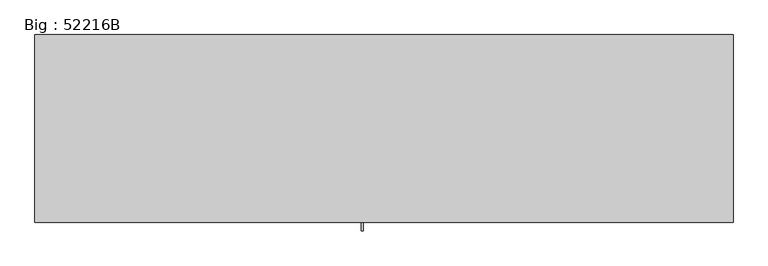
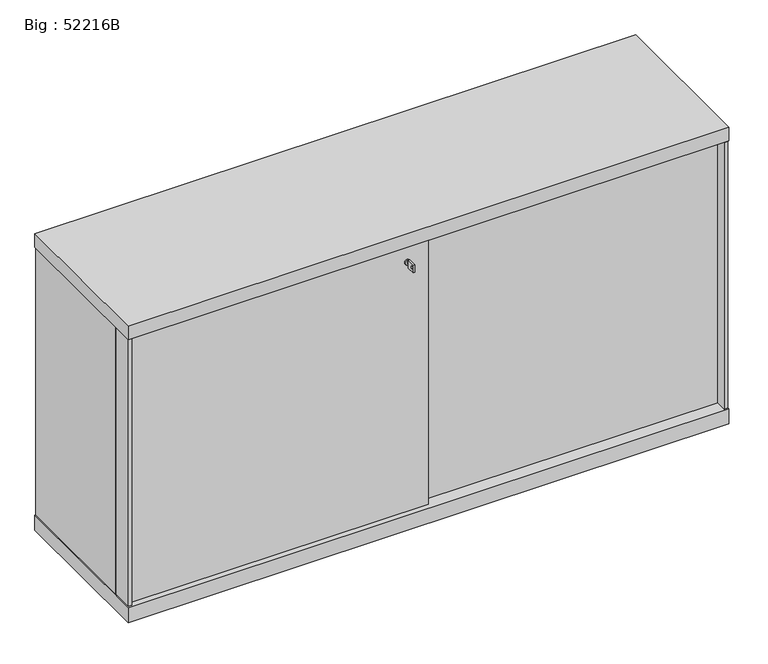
"""IFC4 building model written with IfcOpenShell, lengths in millimetres: furniture geometry, Big : 52216B."""

from ifc_helpers import new_model, si_unit, point, frame, frame_2d, origin, origin_with_axes, place, context, project, spatial, polyline, circle_curve, trimmed, segment, composite_curve, outline, extrude, source, transform, mapped, element, save


def big_52216b_2ced153d(model_context):
    return source(origin(), model_context, "Body", "SweptSolid", [
        extrude(outline(polyline([(-20.0, 741.014113), (-20.0, 763.0), (2.0, 763.0), (2.0, 741.014113), (-20.0, 741.014113)]), holes=[composite_curve([segment(trimmed(circle_curve(frame_2d((-13.75, 752.0070565)), 3.2230706), [point((-13.75, 755.2301271))], [point((-13.75, 748.7839859))], True, "CARTESIAN"), True, "CONTINUOUS"), segment(trimmed(circle_curve(frame_2d((-13.75, 752.0070565)), 3.2230706), [point((-13.75, 748.7839859))], [point((-13.75, 755.2301271))], True, "CARTESIAN"), True, "CONTINUOUS")], self_intersect=False)]), frame((-52.0, 0.0, 0.0), z_axis=(1.0, 0.0, 0.0), x_axis=(0.0, 1.0, 0.0)), (0.0, 0.0, 1.0), 4.0416064),
        extrude(outline(polyline([(-48.9583936, 2.0), (-51.0, 2.0), (-51.0, 8.0), (-48.9583936, 8.0), (-48.9583936, 2.0)])), frame((0.0, 0.0, 748.014113), z_axis=(0.0, 0.0, 1.0), x_axis=(1.0, 0.0, 0.0)), (0.0, 0.0, 1.0), 7.985887),
        extrude(outline(composite_curve([segment(trimmed(circle_curve(frame_2d((752.0, -50.0)), 7.0), [point((752.0, -57.0))], [point((752.0, -43.0))], False, "CARTESIAN"), True, "CONTINUOUS"), segment(trimmed(circle_curve(frame_2d((752.0, -50.0)), 7.0), [point((752.0, -43.0))], [point((752.0, -57.0))], False, "CARTESIAN"), True, "CONTINUOUS")], self_intersect=False)), frame((0.0, 8.0, 0.0), z_axis=(0.0, 1.0, 0.0), x_axis=(0.0, 0.0, 1.0)), (0.0, 0.0, 1.0), 4.0),
        extrude(outline(polyline([(798.5, 2.0), (788.5, 2.0), (788.5, 32.0), (-6.5, 32.0), (-6.5, 48.0), (788.5, 48.0), (788.5, 58.0), (798.5, 58.0), (798.5, 2.0)])), frame((0.0, 0.0, 50.0), z_axis=(0.0, 0.0, 1.0), x_axis=(1.0, 0.0, 0.0)), (0.0, 0.0, 1.0), 750.0),
        extrude(outline(polyline([(-798.5, 2.0), (-798.5, 58.0), (-788.5, 58.0), (-788.5, 28.0), (6.5, 28.0), (6.5, 12.0), (-788.5, 12.0), (-788.5, 2.0), (-798.5, 2.0)])), frame((0.0, 0.0, 50.0), z_axis=(0.0, 0.0, 1.0), x_axis=(1.0, 0.0, 0.0)), (0.0, 0.0, 1.0), 750.0),
        extrude(outline(polyline([(800.0, 0.0), (-800.0, 0.0), (-800.0, 430.0), (800.0, 430.0), (800.0, 0.0)])), frame((0.0, 0.0, 5.0), z_axis=(0.0, 0.0, 1.0), x_axis=(1.0, 0.0, 0.0)), (0.0, 0.0, 1.0), 43.0),
        extrude(outline(polyline([(780.5000002, 428.0), (798.5, 428.0), (798.5, 62.0), (780.5000002, 62.0), (780.5000002, 428.0)])), frame((0.0, 0.0, 48.0), z_axis=(0.0, 0.0, 1.0), x_axis=(1.0, 0.0, 0.0)), (0.0, 0.0, 1.0), 754.0),
        extrude(outline(polyline([(-780.5000002, 408.4999997), (-780.5000002, 420.9999997), (780.5000002, 420.9999997), (780.5000002, 408.4999997), (-780.5000002, 408.4999997)])), frame((0.0, 0.0, 48.0), z_axis=(0.0, 0.0, 1.0), x_axis=(1.0, 0.0, 0.0)), (0.0, 0.0, 1.0), 754.0),
        extrude(outline(polyline([(-780.5000002, 428.0), (-780.5000002, 62.0), (-798.5, 62.0), (-798.5, 428.0), (-780.5000002, 428.0)])), frame((0.0, 0.0, 48.0), z_axis=(0.0, 0.0, 1.0), x_axis=(1.0, 0.0, 0.0)), (0.0, 0.0, 1.0), 754.0),
        extrude(outline(polyline([(800.0, 0.0), (-800.0, 0.0), (-800.0, 430.0), (800.0, 430.0), (800.0, 0.0)])), frame((0.0, 0.0, 802.0), z_axis=(0.0, 0.0, 1.0), x_axis=(1.0, 0.0, 0.0)), (0.0, 0.0, 1.0), 38.0),
        extrude(outline(composite_curve([segment(trimmed(circle_curve(frame_2d((-760.5000002, 336.0000021)), 20.0), [point((-780.5000002, 336.0000021))], [point((-740.5000002, 336.0000021))], False, "CARTESIAN"), True, "CONTINUOUS"), segment(trimmed(circle_curve(frame_2d((-760.5000002, 336.0000021)), 20.0), [point((-740.5000002, 336.0000021))], [point((-780.5000002, 336.0000021))], False, "CARTESIAN"), True, "CONTINUOUS")], self_intersect=False)), origin_with_axes(), (0.0, 0.0, 1.0), 5.0),
        extrude(outline(composite_curve([segment(trimmed(circle_curve(frame_2d((-760.5000002, 98.9999918)), 20.0), [point((-780.5000002, 98.9999918))], [point((-740.5000002, 98.9999918))], False, "CARTESIAN"), True, "CONTINUOUS"), segment(trimmed(circle_curve(frame_2d((-760.5000002, 98.9999918)), 20.0), [point((-740.5000002, 98.9999918))], [point((-780.5000002, 98.9999918))], False, "CARTESIAN"), True, "CONTINUOUS")], self_intersect=False)), origin_with_axes(), (0.0, 0.0, 1.0), 5.0),
        extrude(outline(composite_curve([segment(trimmed(circle_curve(frame_2d((760.5000002, 336.0000021)), 20.0), [point((740.5000002, 336.0000021))], [point((780.5000002, 336.0000021))], False, "CARTESIAN"), True, "CONTINUOUS"), segment(trimmed(circle_curve(frame_2d((760.5000002, 336.0000021)), 20.0), [point((780.5000002, 336.0000021))], [point((740.5000002, 336.0000021))], False, "CARTESIAN"), True, "CONTINUOUS")], self_intersect=False)), origin_with_axes(), (0.0, 0.0, 1.0), 5.0),
        extrude(outline(composite_curve([segment(trimmed(circle_curve(frame_2d((760.5000002, 98.9999918)), 20.0), [point((740.5000002, 98.9999918))], [point((780.5000002, 98.9999918))], False, "CARTESIAN"), True, "CONTINUOUS"), segment(trimmed(circle_curve(frame_2d((760.5000002, 98.9999918)), 20.0), [point((780.5000002, 98.9999918))], [point((740.5000002, 98.9999918))], False, "CARTESIAN"), True, "CONTINUOUS")], self_intersect=False)), origin_with_axes(), (0.0, 0.0, 1.0), 5.0),
    ])


if __name__ == "__main__":
    model = new_model("IFC4")
    model_context = context("Model", 3, world=origin())
    ifc_project = project(units=[si_unit("LENGTHUNIT", "METRE", prefix="MILLI")], contexts=[model_context])
    site = spatial("IfcSite", under=ifc_project)
    building = spatial("IfcBuilding", under=site)
    placement = place(None, origin())
    big_52216b_shape = big_52216b_2ced153d(model_context)
    element("IfcFurniture", 1, ObjectType="Big : 52216B", at=placement, inside=building, context=model_context, shape_type="MappedRepresentation", body=[
        mapped(big_52216b_shape, transform((0.0, 0.0, 0.0), x_axis=(1.0, 0.0, 0.0), y_axis=(0.0, 1.0, 0.0), z_axis=(0.0, 0.0, 1.0))),
    ])
    save(model, "model.ifc")
